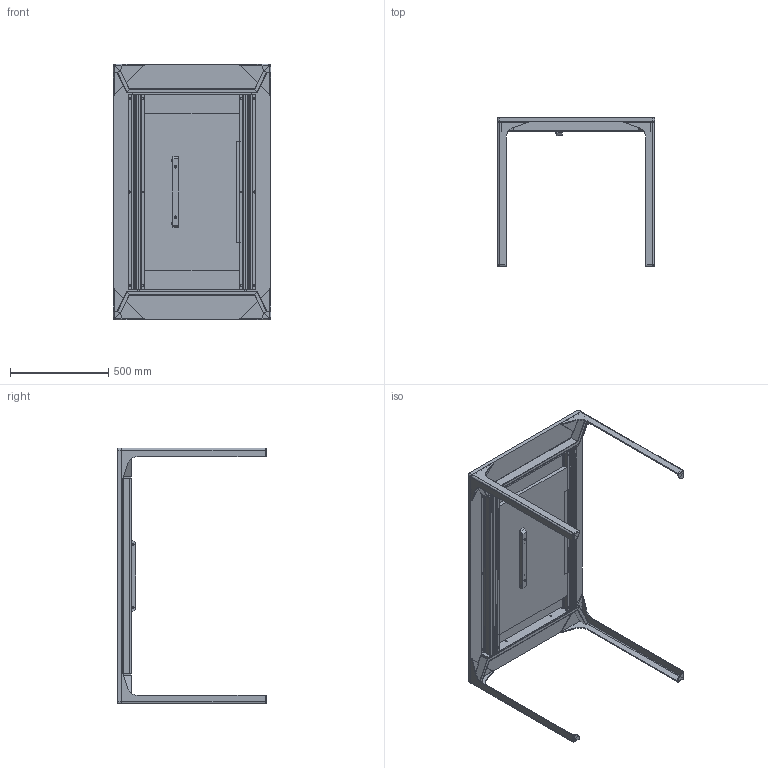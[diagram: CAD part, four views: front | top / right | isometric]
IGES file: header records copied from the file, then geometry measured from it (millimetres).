
Start section: SolidWorks IGES file using NURBS representation for surfaces
Global section: file name: R:\UFFICIO TECNICO\ARCHIVIO DISEGNI\3D\ARMANDO.IGS; native system: SolidWorks 2011; preprocessor: SolidWorks 2011; author: Alberto; date: 121203.165155; units: millimetre
Bounding box: 800 x 756.5 x 1300 mm (x, y, z)
Surface area: 5836251.5 mm2 (no closed solid volume)
Topology: 0 solids, 0 shells, 1334 faces, 16884 edges, 16860 vertices
Faces by surface type: bspline 1334
